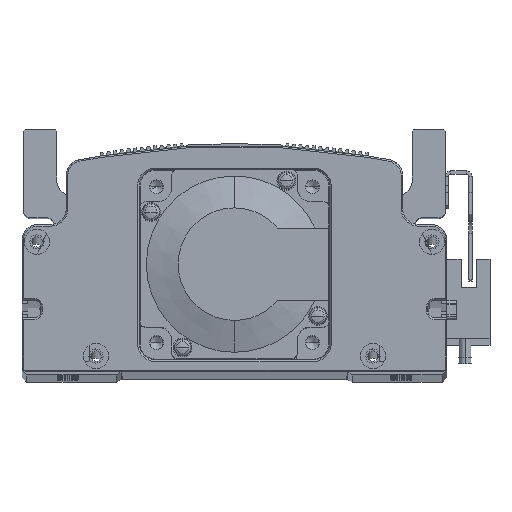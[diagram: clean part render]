
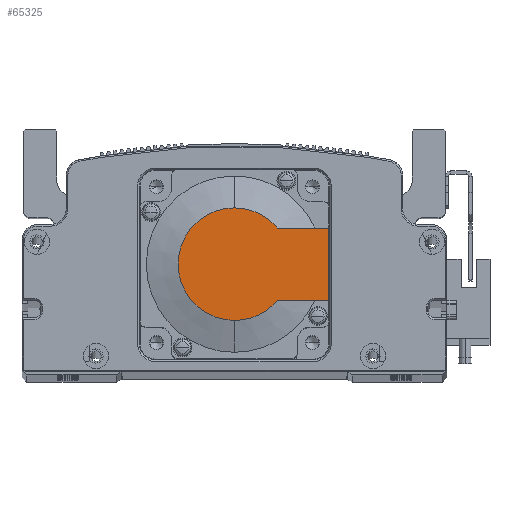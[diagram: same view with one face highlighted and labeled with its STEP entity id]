
A CAD part, top view. The second image highlights one B-rep face of the part: STEP entity #65325.
In plain terms, the highlighted planar face has unit normal (0, 0, 1) as drawn and (-1, 0, 0) by its records, which use the part's own axes.
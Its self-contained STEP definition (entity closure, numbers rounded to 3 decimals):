
#109 = CARTESIAN_POINT ( 'NONE',  ( -118.5, 0., -17.881 ) ) ;
#306 = EDGE_CURVE ( 'NONE', #18531, #66510, #24295, .T. ) ;
#383 = EDGE_CURVE ( 'NONE', #39215, #18531, #37243, .T. ) ;
#1840 = DIRECTION ( 'NONE',  ( -1., 0., 0. ) ) ;
#1989 = EDGE_CURVE ( 'NONE', #38949, #66510, #68968, .T. ) ;
#2974 = CARTESIAN_POINT ( 'NONE',  ( -118.5, 30., 25. ) ) ;
#6260 = ORIENTED_EDGE ( 'NONE', *, *, #46244, .T. ) ;
#7179 = VECTOR ( 'NONE', #25299, 1000. ) ;
#15464 = AXIS2_PLACEMENT_3D ( 'NONE', #56723, #1840, #39896 ) ;
#17555 = DIRECTION ( 'NONE',  ( 0., 0., -1. ) ) ;
#18187 = DIRECTION ( 'NONE',  ( 0., 0., -1. ) ) ;
#18531 = VERTEX_POINT ( 'NONE', #59084 ) ;
#19030 = CIRCLE ( 'NONE', #15464, 17.881 ) ;
#20470 = ORIENTED_EDGE ( 'NONE', *, *, #383, .F. ) ;
#21700 = EDGE_CURVE ( 'NONE', #39215, #62192, #45056, .T. ) ;
#23321 = CARTESIAN_POINT ( 'NONE',  ( -118.5, 13.735, 11.45 ) ) ;
#23730 = DIRECTION ( 'NONE',  ( -1., 0., 0. ) ) ;
#24193 = CARTESIAN_POINT ( 'NONE',  ( -118.5, 0., 0. ) ) ;
#24223 = PLANE ( 'NONE',  #33621 ) ;
#24295 = LINE ( 'NONE', #42404, #51864 ) ;
#24698 = AXIS2_PLACEMENT_3D ( 'NONE', #24193, #23730, #18187 ) ;
#25055 = CARTESIAN_POINT ( 'NONE',  ( -118.5, -8.941, -11.45 ) ) ;
#25299 = DIRECTION ( 'NONE',  ( 0., -1., 0. ) ) ;
#25801 = ORIENTED_EDGE ( 'NONE', *, *, #25955, .T. ) ;
#25955 = EDGE_CURVE ( 'NONE', #42891, #38949, #44496, .T. ) ;
#26519 = DIRECTION ( 'NONE',  ( 0., 0., 1. ) ) ;
#28868 = ORIENTED_EDGE ( 'NONE', *, *, #21700, .T. ) ;
#32166 = EDGE_LOOP ( 'NONE', ( #28868, #6260, #25801, #42444, #38746, #20470 ) ) ;
#33621 = AXIS2_PLACEMENT_3D ( 'NONE', #45606, #40348, #39888 ) ;
#35610 = CARTESIAN_POINT ( 'NONE',  ( -118.5, 30., -11.45 ) ) ;
#36698 = DIRECTION ( 'NONE',  ( 0., -1., 0. ) ) ;
#37243 = LINE ( 'NONE', #2974, #66452 ) ;
#38746 = ORIENTED_EDGE ( 'NONE', *, *, #306, .F. ) ;
#38873 = FACE_OUTER_BOUND ( 'NONE', #32166, .T. ) ;
#38949 = VERTEX_POINT ( 'NONE', #42371 ) ;
#39215 = VERTEX_POINT ( 'NONE', #35610 ) ;
#39888 = DIRECTION ( 'NONE',  ( 0., 0., 1. ) ) ;
#39896 = DIRECTION ( 'NONE',  ( 0., 0., -1. ) ) ;
#40115 = CARTESIAN_POINT ( 'NONE',  ( -118.5, 13.735, -11.45 ) ) ;
#40348 = DIRECTION ( 'NONE',  ( -1., 0., 0. ) ) ;
#42371 = CARTESIAN_POINT ( 'NONE',  ( -118.5, 0., 17.881 ) ) ;
#42404 = CARTESIAN_POINT ( 'NONE',  ( -118.5, 0., 11.45 ) ) ;
#42444 = ORIENTED_EDGE ( 'NONE', *, *, #1989, .T. ) ;
#42891 = VERTEX_POINT ( 'NONE', #109 ) ;
#44496 = CIRCLE ( 'NONE', #24698, 17.881 ) ;
#45056 = LINE ( 'NONE', #25055, #7179 ) ;
#45414 = CARTESIAN_POINT ( 'NONE',  ( -118.5, 0., 0. ) ) ;
#45606 = CARTESIAN_POINT ( 'NONE',  ( -118.5, -8.941, 0. ) ) ;
#46244 = EDGE_CURVE ( 'NONE', #62192, #42891, #19030, .T. ) ;
#48766 = AXIS2_PLACEMENT_3D ( 'NONE', #45414, #50492, #17555 ) ;
#50492 = DIRECTION ( 'NONE',  ( -1., 0., 0. ) ) ;
#51864 = VECTOR ( 'NONE', #36698, 1000. ) ;
#56723 = CARTESIAN_POINT ( 'NONE',  ( -118.5, 0., 0. ) ) ;
#59084 = CARTESIAN_POINT ( 'NONE',  ( -118.5, 30., 11.45 ) ) ;
#62192 = VERTEX_POINT ( 'NONE', #40115 ) ;
#65325 = ADVANCED_FACE ( 'NONE', ( #38873 ), #24223, .T. ) ;
#66452 = VECTOR ( 'NONE', #26519, 1000. ) ;
#66510 = VERTEX_POINT ( 'NONE', #23321 ) ;
#68968 = CIRCLE ( 'NONE', #48766, 17.881 ) ;
